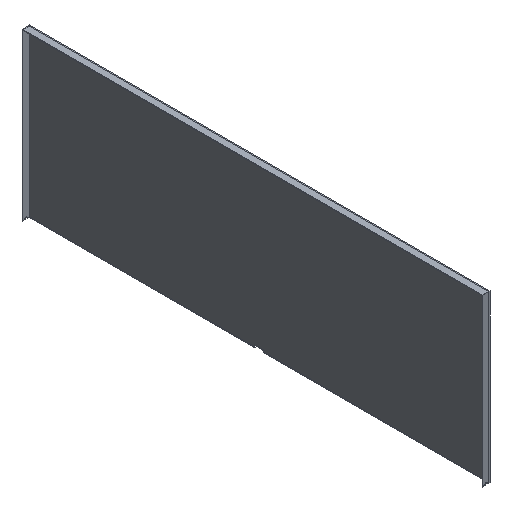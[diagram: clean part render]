
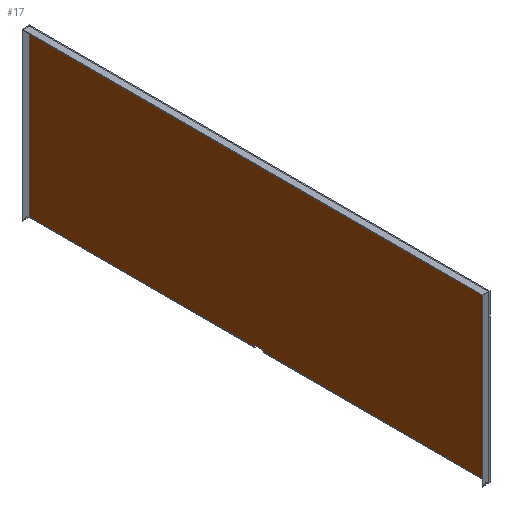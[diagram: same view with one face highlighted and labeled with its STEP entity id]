
A CAD part, isometric view. The second image highlights one B-rep face of the part: STEP entity #17.
In plain terms, the highlighted planar face has unit normal (-1, 0, 0).
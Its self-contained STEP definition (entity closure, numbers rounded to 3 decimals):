
#17 = ADVANCED_FACE('',(#18),#84,.F.);
#18 = FACE_BOUND('',#19,.F.);
#19 = EDGE_LOOP('',(#20,#30,#38,#46,#54,#62,#70,#78));
#20 = ORIENTED_EDGE('',*,*,#21,.F.);
#21 = EDGE_CURVE('',#22,#24,#26,.T.);
#22 = VERTEX_POINT('',#23);
#23 = CARTESIAN_POINT('',(605.,418.032,12.7));
#24 = VERTEX_POINT('',#25);
#25 = CARTESIAN_POINT('',(605.,418.032,624.468));
#26 = LINE('',#27,#28);
#27 = CARTESIAN_POINT('',(605.,418.032,12.7));
#28 = VECTOR('',#29,1.);
#29 = DIRECTION('',(0.,0.,1.));
#30 = ORIENTED_EDGE('',*,*,#31,.T.);
#31 = EDGE_CURVE('',#22,#32,#34,.T.);
#32 = VERTEX_POINT('',#33);
#33 = CARTESIAN_POINT('',(605.,1250.75,12.7));
#34 = LINE('',#35,#36);
#35 = CARTESIAN_POINT('',(605.,416.,12.7));
#36 = VECTOR('',#37,1.);
#37 = DIRECTION('',(0.,1.,0.));
#38 = ORIENTED_EDGE('',*,*,#39,.T.);
#39 = EDGE_CURVE('',#32,#40,#42,.T.);
#40 = VERTEX_POINT('',#41);
#41 = CARTESIAN_POINT('',(605.,1250.75,21.296));
#42 = LINE('',#43,#44);
#43 = CARTESIAN_POINT('',(605.,1250.75,12.7));
#44 = VECTOR('',#45,1.);
#45 = DIRECTION('',(0.,0.,1.));
#46 = ORIENTED_EDGE('',*,*,#47,.T.);
#47 = EDGE_CURVE('',#40,#48,#50,.T.);
#48 = VERTEX_POINT('',#49);
#49 = CARTESIAN_POINT('',(605.,1282.85,21.296));
#50 = LINE('',#51,#52);
#51 = CARTESIAN_POINT('',(605.,1250.75,21.296));
#52 = VECTOR('',#53,1.);
#53 = DIRECTION('',(0.,1.,0.));
#54 = ORIENTED_EDGE('',*,*,#55,.F.);
#55 = EDGE_CURVE('',#56,#48,#58,.T.);
#56 = VERTEX_POINT('',#57);
#57 = CARTESIAN_POINT('',(605.,1282.85,12.7));
#58 = LINE('',#59,#60);
#59 = CARTESIAN_POINT('',(605.,1282.85,12.7));
#60 = VECTOR('',#61,1.);
#61 = DIRECTION('',(0.,0.,1.));
#62 = ORIENTED_EDGE('',*,*,#63,.T.);
#63 = EDGE_CURVE('',#56,#64,#66,.T.);
#64 = VERTEX_POINT('',#65);
#65 = CARTESIAN_POINT('',(605.,2115.568,12.7));
#66 = LINE('',#67,#68);
#67 = CARTESIAN_POINT('',(605.,416.,12.7));
#68 = VECTOR('',#69,1.);
#69 = DIRECTION('',(0.,1.,0.));
#70 = ORIENTED_EDGE('',*,*,#71,.T.);
#71 = EDGE_CURVE('',#64,#72,#74,.T.);
#72 = VERTEX_POINT('',#73);
#73 = CARTESIAN_POINT('',(605.,2115.568,624.468));
#74 = LINE('',#75,#76);
#75 = CARTESIAN_POINT('',(605.,2115.568,12.7));
#76 = VECTOR('',#77,1.);
#77 = DIRECTION('',(0.,0.,1.));
#78 = ORIENTED_EDGE('',*,*,#79,.F.);
#79 = EDGE_CURVE('',#24,#72,#80,.T.);
#80 = LINE('',#81,#82);
#81 = CARTESIAN_POINT('',(605.,416.,624.468));
#82 = VECTOR('',#83,1.);
#83 = DIRECTION('',(0.,1.,0.));
#84 = PLANE('',#85);
#85 = AXIS2_PLACEMENT_3D('',#86,#87,#88);
#86 = CARTESIAN_POINT('',(605.,416.,12.7));
#87 = DIRECTION('',(1.,0.,0.));
#88 = DIRECTION('',(0.,0.,1.));
